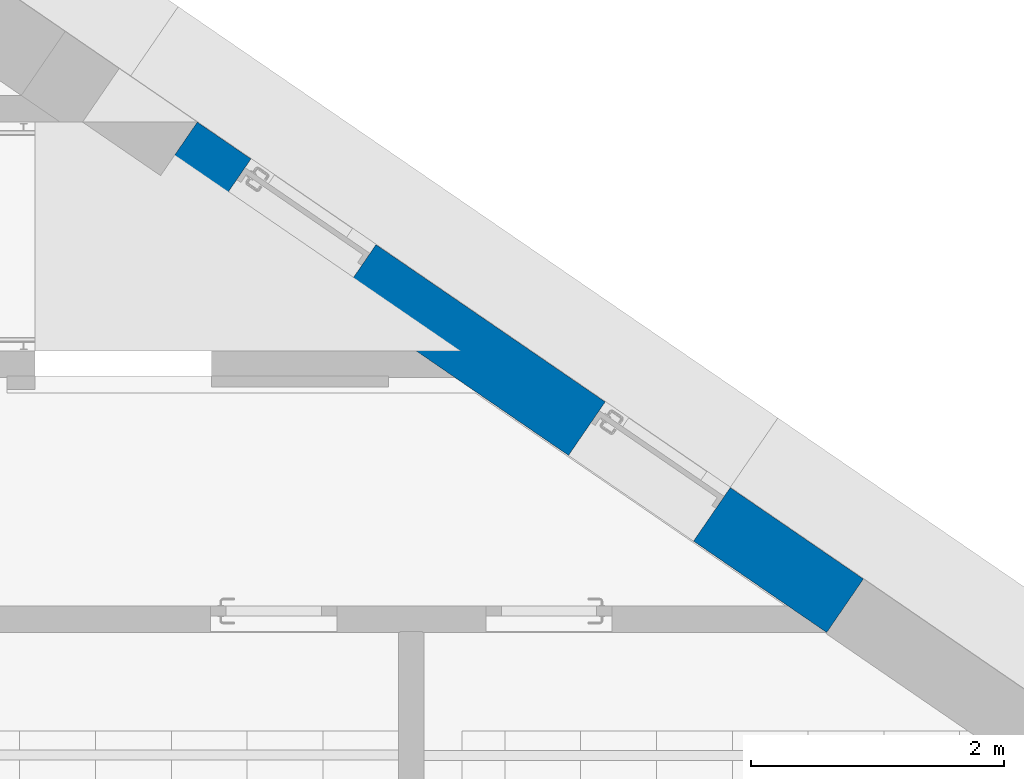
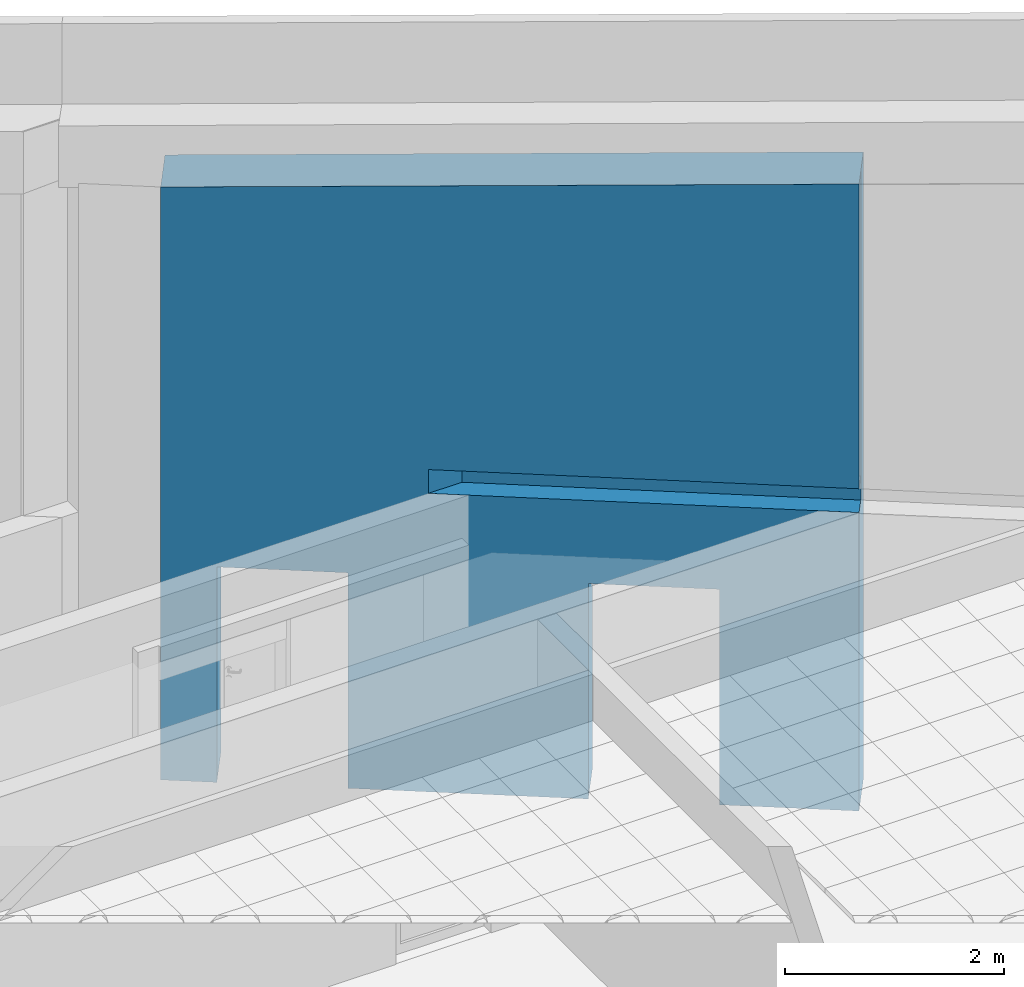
# One storey, part 37 of 79: 1 wall, 2 openings.
"""IFC2X3 building model written with IfcOpenShell, lengths in millimetres."""

from ifc_helpers import new_model, entity, si_unit, converted_unit, derived_unit, money_unit, direction, frame, origin_with_axes, place, context, subcontext, project, spatial, faceted_brep, material, material_list, type_object, element, save


model = new_model("IFC2X3")

# Units and contexts
model_context = context("Model", 3, precision=0.01, world=origin_with_axes(), true_north=direction((0.0, 1.0)))
body_context = subcontext(model_context, "Body", "Model", "MODEL_VIEW")
ifc_project = project(units=[si_unit("LENGTHUNIT", "METRE", prefix="MILLI"), si_unit("AREAUNIT", "SQUARE_METRE"), si_unit("VOLUMEUNIT", "CUBIC_METRE"), converted_unit("PLANEANGLEUNIT", "DEGREE", entity("IfcPlaneAngleMeasure", 0.0174532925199), si_unit("PLANEANGLEUNIT", "RADIAN"), dimensions=[0, 0, 0, 0, 0, 0, 0]), si_unit("SOLIDANGLEUNIT", "STERADIAN"), money_unit("EUR"), converted_unit("TIMEUNIT", "Year", entity("IfcTimeMeasure", 31556926.0), si_unit("TIMEUNIT", "SECOND"), dimensions=[0, 0, 1, 0, 0, 0, 0]), si_unit("MASSUNIT", "GRAM", prefix="KILO"), si_unit("THERMODYNAMICTEMPERATUREUNIT", "DEGREE_CELSIUS"), si_unit("LUMINOUSINTENSITYUNIT", "LUMEN"), si_unit("ENERGYUNIT", "JOULE", prefix="MEGA"), derived_unit("THERMALCONDUCTANCEUNIT", [(si_unit("POWERUNIT", "WATT"), 1), (si_unit("LENGTHUNIT", "METRE"), -1), (si_unit("THERMODYNAMICTEMPERATUREUNIT", "KELVIN"), -1)]), derived_unit("SPECIFICHEATCAPACITYUNIT", [(si_unit("ENERGYUNIT", "JOULE"), 1), (si_unit("MASSUNIT", "GRAM", prefix="KILO"), -1), (si_unit("THERMODYNAMICTEMPERATUREUNIT", "KELVIN"), -1)]), derived_unit("MASSDENSITYUNIT", [(si_unit("MASSUNIT", "GRAM", prefix="KILO"), 1), (si_unit("VOLUMEUNIT", "CUBIC_METRE"), -1)])], contexts=[model_context])

# Site, building, storey
site_placement = place(None, origin_with_axes())
site = spatial("IfcSite", under=ifc_project, at=site_placement, Name="L.Koidula tn 11b", CompositionType="ELEMENT")
building_placement = place(site_placement, origin_with_axes())
building = spatial("IfcBuilding", under=site, at=building_placement, Name="Rakvere Riigigümnaasium", CompositionType="ELEMENT")
storey_placement = place(building_placement, frame((0.0, 0.0, 3720.0), z_axis=(0.0, 0.0, 1.0), x_axis=(1.0, 0.0, 0.0)))
storey = spatial("IfcBuildingStorey", under=building, at=storey_placement, Name="2.korrus +3,72", CompositionType="ELEMENT", Elevation=3720.0)

# Wall, openings
ifc_material_1 = material(Name="Betoon-element")
ifc_material_2 = material(Name="FF-PIR soojustus")
ifc_material_3 = material(Name="Tuuletõke (RKL Facade)")
ifc_material_4 = material(Name="Salto-roovitus")
ifc_material_5 = material(Name="Puit-fassaad")
ifc_material_list = material_list([ifc_material_1, ifc_material_2, ifc_material_3, ifc_material_4, ifc_material_4, ifc_material_5])
wall_type = type_object("IfcWallType", Name="VS-01 514", PredefinedType="NOTDEFINED")
wall_placement = place(storey_placement, frame((91857.3600325, 13070.4543717, 0.0), z_axis=(0.0, 0.0, 1.0), x_axis=(-0.824665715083, 0.565620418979, 0.0)))
wall = element("IfcWall", 1, at=wall_placement, inside=storey, type_object=wall_type, material=ifc_material_list, Name="Välissein", context=body_context, shape_type="Brep", body=[
    faceted_brep([(6393.20600392, -200.0, 6604.76304739), (0.0, -200.0, 6984.75285091), (0.0, -200.0, 0.0), (1278.15494146, -200.0, 0.0), (1278.15494146, -200.0, 2400.0), (2478.15494146, -200.0, 2400.0), (2478.15494146, -200.0, 0.0), (4678.15494146, -200.0, 0.0), (4678.15494146, -200.0, 2400.0), (5878.15494146, -200.0, 2400.0), (5878.15494146, -200.0, 0.0), (6393.20600392, -200.0, 0.0), (0.0, 0.0, 6984.75283986), (6393.20600392, 0.0, 6604.76303634), (0.0, 0.0, 3590.0), (0.0, -199.985065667, 3590.0), (0.0, -199.985065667, 3325.0), (0.0, 0.0, 3325.0), (0.0, 0.0, 0.0), (1278.15494146, 0.0, 0.0), (1278.15494146, 0.0, 2400.0), (2478.15494146, 0.0, 2400.0), (2478.15494146, 0.0, 0.0), (4678.15494146, 0.0, 0.0), (4678.15494146, 0.0, 2400.0), (5878.15494146, 0.0, 2400.0), (5878.15494146, 0.0, 0.0), (6393.20600392, 0.0, 0.0), (3942.61821956, 0.0, 3325.0), (3942.61821956, 0.0, 3590.0), (3651.04707707, -199.982667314, 3590.0), (3651.04707707, -199.982667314, 3325.0)], [[[0, 1, 2, 3, 4, 5, 6, 7, 8, 9, 10, 11]], [[12, 1, 0, 13]], [[1, 12, 14, 15, 16, 17, 18, 2]], [[2, 18, 19, 3]], [[19, 20, 4, 3]], [[20, 21, 5, 4]], [[21, 22, 6, 5]], [[23, 7, 6, 22]], [[24, 8, 7, 23]], [[25, 9, 8, 24]], [[26, 10, 9, 25]], [[11, 10, 26, 27]], [[13, 0, 11, 27]], [[12, 13, 27, 26, 25, 24, 23, 22, 21, 20, 19, 18, 17, 28, 29, 14]], [[15, 14, 29, 30]], [[16, 15, 30, 31]], [[28, 17, 16, 31]], [[29, 28, 31, 30]]]),
    faceted_brep([(6393.20600392, -380.0, 6604.76305734), (0.0, -380.0, 6984.75286086), (0.0, -380.0, 0.0), (1278.15494146, -380.0, 0.0), (1278.15494146, -380.0, 2400.0), (2478.15494146, -380.0, 2400.0), (2478.15494146, -380.0, 0.0), (4678.15494146, -380.0, 0.0), (4678.15494146, -380.0, 2400.0), (5878.15494146, -380.0, 2400.0), (5878.15494146, -380.0, 0.0), (6393.20600392, -380.0, 0.0), (0.0, -200.0, 6984.75285091), (6393.20600392, -200.0, 6604.76304739), (0.0, -200.0, 0.0), (1278.15494146, -200.0, 0.0), (1278.15494146, -200.0, 2400.0), (2478.15494146, -200.0, 2400.0), (2478.15494146, -200.0, 0.0), (4678.15494146, -200.0, 0.0), (4678.15494146, -200.0, 2400.0), (5878.15494146, -200.0, 2400.0), (5878.15494146, -200.0, 0.0), (6393.20600392, -200.0, 0.0)], [[[0, 1, 2, 3, 4, 5, 6, 7, 8, 9, 10, 11]], [[12, 1, 0, 13]], [[1, 12, 14, 2]], [[2, 14, 15, 3]], [[15, 16, 4, 3]], [[16, 17, 5, 4]], [[17, 18, 6, 5]], [[19, 7, 6, 18]], [[20, 8, 7, 19]], [[21, 9, 8, 20]], [[22, 10, 9, 21]], [[11, 10, 22, 23]], [[13, 0, 11, 23]], [[12, 13, 23, 22, 21, 20, 19, 18, 17, 16, 15, 14]]]),
    faceted_brep([(6393.20600392, -430.0, 6604.7630601), (0.0, -430.0, 6984.75286362), (0.0, -430.0, 0.0), (1278.15494146, -430.0, 0.0), (1278.15494146, -430.0, 2400.0), (2478.15494146, -430.0, 2400.0), (2478.15494146, -430.0, 0.0), (4678.15494146, -430.0, 0.0), (4678.15494146, -430.0, 2400.0), (5878.15494146, -430.0, 2400.0), (5878.15494146, -430.0, 0.0), (6393.20600392, -430.0, 0.0), (0.0, -380.0, 6984.75286086), (6393.20600392, -380.0, 6604.76305734), (0.0, -380.0, 0.0), (1278.15494146, -380.0, 0.0), (1278.15494146, -380.0, 2400.0), (2478.15494146, -380.0, 2400.0), (2478.15494146, -380.0, 0.0), (4678.15494146, -380.0, 0.0), (4678.15494146, -380.0, 2400.0), (5878.15494146, -380.0, 2400.0), (5878.15494146, -380.0, 0.0), (6393.20600392, -380.0, 0.0)], [[[0, 1, 2, 3, 4, 5, 6, 7, 8, 9, 10, 11]], [[12, 1, 0, 13]], [[1, 12, 14, 2]], [[2, 14, 15, 3]], [[15, 16, 4, 3]], [[16, 17, 5, 4]], [[17, 18, 6, 5]], [[19, 7, 6, 18]], [[20, 8, 7, 19]], [[21, 9, 8, 20]], [[22, 10, 9, 21]], [[11, 10, 22, 23]], [[13, 0, 11, 23]], [[12, 13, 23, 22, 21, 20, 19, 18, 17, 16, 15, 14]]]),
    faceted_brep([(6393.20600392, -462.0, 6604.76306187), (0.0, -462.0, 6984.75286539), (0.0, -462.0, 0.0), (1278.15494146, -462.0, 0.0), (1278.15494146, -462.0, 2400.0), (2478.15494146, -462.0, 2400.0), (2478.15494146, -462.0, 0.0), (4678.15494146, -462.0, 0.0), (4678.15494146, -462.0, 2400.0), (5878.15494146, -462.0, 2400.0), (5878.15494146, -462.0, 0.0), (6393.20600392, -462.0, 0.0), (0.0, -430.0, 6984.75286362), (6393.20600392, -430.0, 6604.7630601), (0.0, -430.0, 0.0), (1278.15494146, -430.0, 0.0), (1278.15494146, -430.0, 2400.0), (2478.15494146, -430.0, 2400.0), (2478.15494146, -430.0, 0.0), (4678.15494146, -430.0, 0.0), (4678.15494146, -430.0, 2400.0), (5878.15494146, -430.0, 2400.0), (5878.15494146, -430.0, 0.0), (6393.20600392, -430.0, 0.0)], [[[0, 1, 2, 3, 4, 5, 6, 7, 8, 9, 10, 11]], [[12, 1, 0, 13]], [[1, 12, 14, 2]], [[2, 14, 15, 3]], [[15, 16, 4, 3]], [[16, 17, 5, 4]], [[17, 18, 6, 5]], [[19, 7, 6, 18]], [[20, 8, 7, 19]], [[21, 9, 8, 20]], [[22, 10, 9, 21]], [[11, 10, 22, 23]], [[13, 0, 11, 23]], [[12, 13, 23, 22, 21, 20, 19, 18, 17, 16, 15, 14]]]),
    faceted_brep([(6393.20600392, -494.0, 6604.76306364), (0.0, -494.0, 6984.75286716), (0.0, -494.0, 0.0), (1278.15494146, -494.0, 0.0), (1278.15494146, -494.0, 2400.0), (2478.15494146, -494.0, 2400.0), (2478.15494146, -494.0, 0.0), (4678.15494146, -494.0, 0.0), (4678.15494146, -494.0, 2400.0), (5878.15494146, -494.0, 2400.0), (5878.15494146, -494.0, 0.0), (6393.20600392, -494.0, 0.0), (0.0, -462.0, 6984.75286539), (6393.20600392, -462.0, 6604.76306187), (0.0, -462.0, 0.0), (1278.15494146, -462.0, 0.0), (1278.15494146, -462.0, 2400.0), (2478.15494146, -462.0, 2400.0), (2478.15494146, -462.0, 0.0), (4678.15494146, -462.0, 0.0), (4678.15494146, -462.0, 2400.0), (5878.15494146, -462.0, 2400.0), (5878.15494146, -462.0, 0.0), (6393.20600392, -462.0, 0.0)], [[[0, 1, 2, 3, 4, 5, 6, 7, 8, 9, 10, 11]], [[12, 1, 0, 13]], [[1, 12, 14, 2]], [[2, 14, 15, 3]], [[15, 16, 4, 3]], [[16, 17, 5, 4]], [[17, 18, 6, 5]], [[19, 7, 6, 18]], [[20, 8, 7, 19]], [[21, 9, 8, 20]], [[22, 10, 9, 21]], [[11, 10, 22, 23]], [[13, 0, 11, 23]], [[12, 13, 23, 22, 21, 20, 19, 18, 17, 16, 15, 14]]]),
    faceted_brep([(6393.20600392, -514.0, 6604.76306474), (0.0, -514.0, 6984.75286827), (0.0, -514.0, 0.0), (1278.15494146, -514.0, 0.0), (1278.15494146, -514.0, 2400.0), (2478.15494146, -514.0, 2400.0), (2478.15494146, -514.0, 0.0), (4678.15494146, -514.0, 0.0), (4678.15494146, -514.0, 2400.0), (5878.15494146, -514.0, 2400.0), (5878.15494146, -514.0, 0.0), (6393.20600392, -514.0, 0.0), (0.0, -494.0, 6984.75286716), (6393.20600392, -494.0, 6604.76306364), (0.0, -494.0, 0.0), (1278.15494146, -494.0, 0.0), (1278.15494146, -494.0, 2400.0), (2478.15494146, -494.0, 2400.0), (2478.15494146, -494.0, 0.0), (4678.15494146, -494.0, 0.0), (4678.15494146, -494.0, 2400.0), (5878.15494146, -494.0, 2400.0), (5878.15494146, -494.0, 0.0), (6393.20600392, -494.0, 0.0)], [[[0, 1, 2, 3, 4, 5, 6, 7, 8, 9, 10, 11]], [[12, 1, 0, 13]], [[1, 12, 14, 2]], [[2, 14, 15, 3]], [[15, 16, 4, 3]], [[16, 17, 5, 4]], [[17, 18, 6, 5]], [[19, 7, 6, 18]], [[20, 8, 7, 19]], [[21, 9, 8, 20]], [[22, 10, 9, 21]], [[11, 10, 22, 23]], [[13, 0, 11, 23]], [[12, 13, 23, 22, 21, 20, 19, 18, 17, 16, 15, 14]]]),
])
opening_1_placement = place(wall_placement, frame((5278.15494146, 0.0, 0.0), z_axis=(0.0, 0.0, 1.0), x_axis=(1.0, 0.0, 0.0)))
element("IfcOpeningElement", 2, at=opening_1_placement, cuts=wall, Name="VU-02", context=body_context, shape_type="Brep", body=[
    faceted_brep([(-600.0, 514.0, 2400.0), (-600.0, 514.0, 0.0), (-600.0, -430.0, 0.0), (-600.0, -430.0, 2400.0), (600.0, 514.0, 2400.0), (600.0, 514.0, 0.0), (600.0, -430.0, 0.0), (600.0, -430.0, 2400.0)], [[[0, 1, 2, 3]], [[0, 4, 5, 1]], [[1, 5, 6, 2]], [[3, 2, 6, 7]], [[4, 0, 3, 7]], [[5, 4, 7, 6]]]),
    faceted_brep([(-600.0, -1028.0, 0.0), (-600.0, -1028.0, 2400.0), (-600.0, -430.0, 2400.0), (-600.0, -430.0, 0.0), (600.0, -1028.0, 0.0), (600.0, -1028.0, 2400.0), (600.0, -430.0, 2400.0), (600.0, -430.0, 0.0)], [[[0, 1, 2, 3]], [[0, 4, 5, 1]], [[1, 5, 6, 2]], [[3, 2, 6, 7]], [[4, 0, 3, 7]], [[5, 4, 7, 6]]]),
])
opening_2_placement = place(wall_placement, frame((1878.15494146, 0.0, 0.0), z_axis=(0.0, 0.0, 1.0), x_axis=(1.0, 0.0, 0.0)))
element("IfcOpeningElement", 3, at=opening_2_placement, cuts=wall, Name="VU-02", context=body_context, shape_type="Brep", body=[
    faceted_brep([(-600.0, 514.0, 2400.0), (-600.0, 514.0, 0.0), (-600.0, -430.0, 0.0), (-600.0, -430.0, 2400.0), (600.0, 514.0, 2400.0), (600.0, 514.0, 0.0), (600.0, -430.0, 0.0), (600.0, -430.0, 2400.0)], [[[0, 1, 2, 3]], [[0, 4, 5, 1]], [[1, 5, 6, 2]], [[3, 2, 6, 7]], [[4, 0, 3, 7]], [[5, 4, 7, 6]]]),
    faceted_brep([(-600.0, -1028.0, 0.0), (-600.0, -1028.0, 2400.0), (-600.0, -430.0, 2400.0), (-600.0, -430.0, 0.0), (600.0, -1028.0, 0.0), (600.0, -1028.0, 2400.0), (600.0, -430.0, 2400.0), (600.0, -430.0, 0.0)], [[[0, 1, 2, 3]], [[0, 4, 5, 1]], [[1, 5, 6, 2]], [[3, 2, 6, 7]], [[4, 0, 3, 7]], [[5, 4, 7, 6]]]),
])

save(model, "model.ifc")
